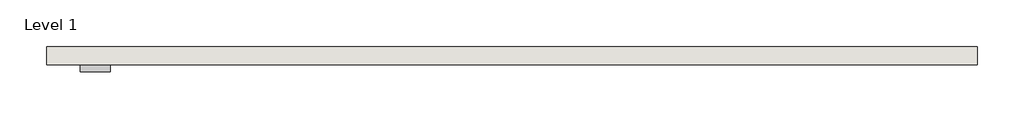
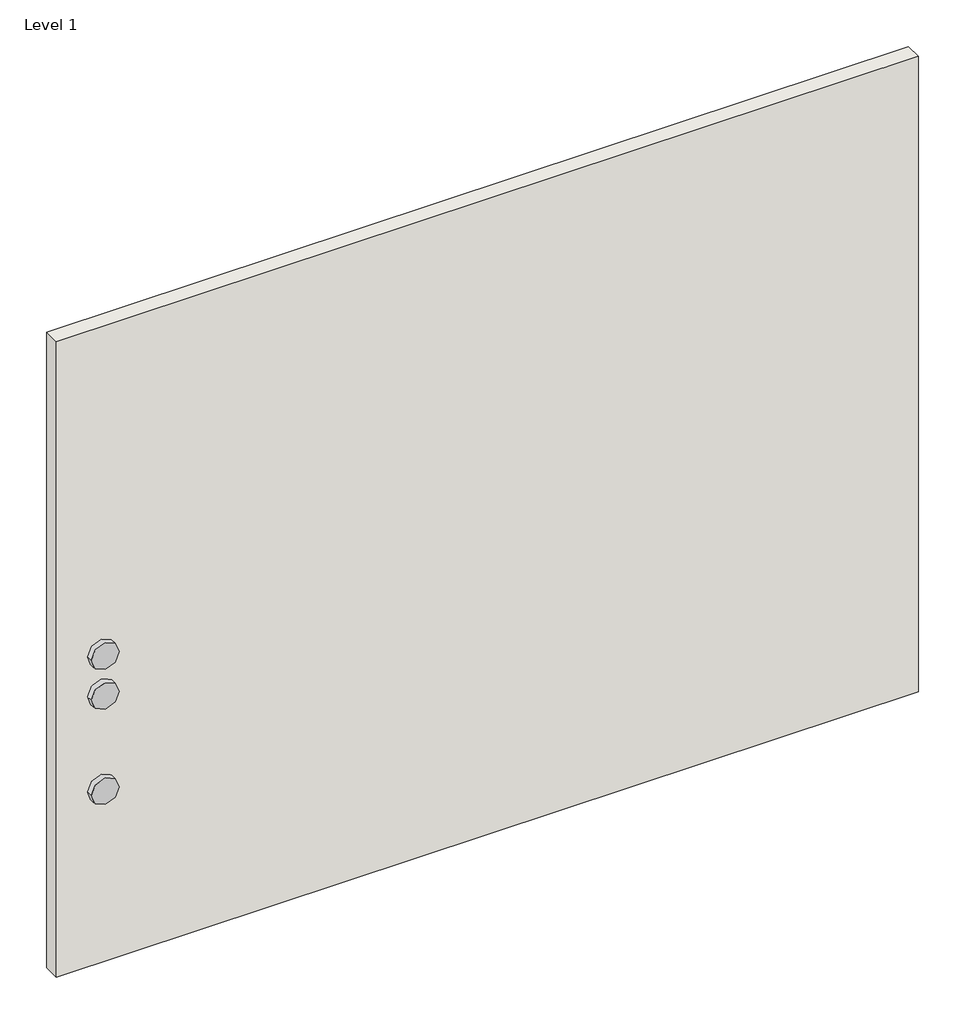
# One storey, incomplete: 3 proxies, 1 wall.
"""IFC4 building model written with IfcOpenShell, lengths in millimetres."""

import ifcopenshell
import ifcopenshell.guid

model = None  # the IFC model being written
_history = None  # IfcOwnerHistory: only IFC2X3 demands one
_inside = {}  # id of a spatial element -> (the spatial element, [elements in it])
_under = {}  # id of a project, library or spatial element -> (it, [spatial elements below it])
_declared = {}  # id of a project -> (the project, [libraries it declares])
_typed = {}  # id of a type object -> (the type object, [elements of that type])
_made_of = {}  # id of a material, layer set ... -> (it, [elements and type objects made of it])


def new_model(schema):
    """Start an empty IFC model of exactly this schema.

    Asked for "IFC4X3", IfcOpenShell would pick the latest addendum, in which some entities
    have other attributes; the version numbers below select the first issue.
    IFC2X3 requires an IfcOwnerHistory on every rooted entity: one is made here for all.
    """
    global model, _history
    if schema == "IFC4X3":
        model = ifcopenshell.file(schema_version=(4, 3, 0, 0))
    else:
        model = ifcopenshell.file(schema=schema)
    _inside.clear()
    _under.clear()
    _declared.clear()
    _typed.clear()
    _made_of.clear()
    _history = None
    if model.schema == "IFC2X3":
        org = make("IfcOrganization", Name="unknown")
        user = make(
            "IfcPersonAndOrganization",
            ThePerson=make("IfcPerson", FamilyName="unknown"),
            TheOrganization=org,
        )
        app = make(
            "IfcApplication",
            ApplicationDeveloper=org,
            Version="unknown",
            ApplicationFullName="unknown",
            ApplicationIdentifier="unknown",
        )
        _history = make(
            "IfcOwnerHistory",
            OwningUser=user,
            OwningApplication=app,
            ChangeAction="ADDED",
            CreationDate=0,
        )
    return model


def make(cls, **values):
    """One entity of the class cls with the attributes given. An attribute that is None is left unset."""
    return model.create_entity(
        cls, **{name: value for name, value in values.items() if value is not None}
    )


def rooted(cls, **values):
    """An entity with a GlobalId (a new one), such as an element, a storey or a relation."""
    return make(cls, GlobalId=ifcopenshell.guid.new(), OwnerHistory=_history, **values)


def si_unit(unit_type, name, prefix=None):
    """IfcSIUnit, for example si_unit("LENGTHUNIT", "METRE", prefix="MILLI")."""
    return make("IfcSIUnit", UnitType=unit_type, Prefix=prefix, Name=name)


def assignment(units):
    """IfcUnitAssignment: the units of a project."""
    return None if units is None else make("IfcUnitAssignment", Units=units)


def point(xyz):
    """IfcCartesianPoint."""
    return None if xyz is None else make("IfcCartesianPoint", Coordinates=xyz)


def direction(xyz):
    """IfcDirection."""
    return None if xyz is None else make("IfcDirection", DirectionRatios=xyz)


def frame(location, z_axis=None, x_axis=None):
    """IfcAxis2Placement3D, a coordinate frame: its origin and axes. An axis left out is left unset."""
    return make(
        "IfcAxis2Placement3D",
        Location=point(location),
        Axis=direction(z_axis),
        RefDirection=direction(x_axis),
    )


def frame_2d(location, x_axis=None):
    """IfcAxis2Placement2D, a coordinate frame in the plane: its origin and x axis."""
    return make(
        "IfcAxis2Placement2D", Location=point(location), RefDirection=direction(x_axis)
    )


def origin():
    """The frame at (0, 0, 0) with its axes left unset."""
    return frame((0.0, 0.0, 0.0))


def origin_with_axes():
    """The frame at (0, 0, 0) with the z axis (0, 0, 1) and the x axis (1, 0, 0) written out."""
    return frame((0.0, 0.0, 0.0), z_axis=(0.0, 0.0, 1.0), x_axis=(1.0, 0.0, 0.0))


def place(relative_to, where):
    """IfcLocalPlacement: puts the frame where relative to a parent placement (None: the world)."""
    return make(
        "IfcLocalPlacement", PlacementRelTo=relative_to, RelativePlacement=where
    )


def context(
    kind, dimensions, precision=None, world=None, true_north=None, identifier=None
):
    """IfcGeometricRepresentationContext, for example the 3D "Model" context."""
    return make(
        "IfcGeometricRepresentationContext",
        ContextIdentifier=identifier,
        ContextType=kind,
        CoordinateSpaceDimension=dimensions,
        Precision=precision,
        WorldCoordinateSystem=world,
        TrueNorth=true_north,
    )


def project(units=None, contexts=None):
    """IfcProject with its units and contexts."""
    return rooted(
        "IfcProject",
        Name="project",
        RepresentationContexts=contexts,
        UnitsInContext=assignment(units),
    )


def spatial(cls, under=None, at=None, **own):
    """A site, building, storey or space (cls), placed at a placement, below another one or the project."""
    s = rooted(cls, ObjectPlacement=at, **own)
    if under is not None:
        _under.setdefault(under.id(), (under, []))[1].append(s)
    return s


def polyline(points):
    """IfcPolyline through the points."""
    return make("IfcPolyline", Points=[point(p) for p in points])


def circle_curve(where, radius):
    """IfcCircle in the frame where."""
    return make("IfcCircle", Position=where, Radius=radius)


def trimmed(basis, trim1, trim2, sense, master):
    """IfcTrimmedCurve: the piece of a basis curve between two trims."""
    return make(
        "IfcTrimmedCurve",
        BasisCurve=basis,
        Trim1=trim1,
        Trim2=trim2,
        SenseAgreement=sense,
        MasterRepresentation=master,
    )


def segment(curve, same_sense, transition):
    """IfcCompositeCurveSegment."""
    return make(
        "IfcCompositeCurveSegment",
        Transition=transition,
        SameSense=same_sense,
        ParentCurve=curve,
    )


def composite_curve(segments, self_intersect=None):
    """IfcCompositeCurve: segments joined end to end."""
    return make("IfcCompositeCurve", Segments=segments, SelfIntersect=self_intersect)


def outline(outer, holes=None, kind="AREA"):
    """IfcArbitraryClosedProfileDef: a profile drawn as a closed curve; with holes, ...WithVoids."""
    if holes is None:
        return make("IfcArbitraryClosedProfileDef", ProfileType=kind, OuterCurve=outer)
    return make(
        "IfcArbitraryProfileDefWithVoids",
        ProfileType=kind,
        OuterCurve=outer,
        InnerCurves=holes,
    )


def extrude(swept, where, along, depth):
    """IfcExtrudedAreaSolid: the profile swept, set in the frame where, extruded along a direction by depth."""
    return make(
        "IfcExtrudedAreaSolid",
        SweptArea=swept,
        Position=where,
        ExtrudedDirection=direction(along),
        Depth=depth,
    )


def shape(context_of_items, identifier, shape_type, items):
    """IfcShapeRepresentation: the items that make up one representation, for example the "Body"."""
    return make(
        "IfcShapeRepresentation",
        ContextOfItems=context_of_items,
        RepresentationIdentifier=identifier,
        RepresentationType=shape_type,
        Items=items,
    )


def source(mapping_origin, context_of_items, identifier, shape_type, items):
    """IfcRepresentationMap: a shape defined once, which mapped items show again and again."""
    return make(
        "IfcRepresentationMap",
        MappingOrigin=mapping_origin,
        MappedRepresentation=shape(context_of_items, identifier, shape_type, items),
    )


def transform(
    local_origin,
    x_axis=None,
    y_axis=None,
    z_axis=None,
    scale=None,
    scale2=None,
    scale3=None,
    uniform=True,
):
    """IfcCartesianTransformationOperator3D, or its non-uniform kind. x_axis, y_axis, z_axis: its Axis1, 2, 3."""
    if uniform:
        return make(
            "IfcCartesianTransformationOperator3D",
            Axis1=direction(x_axis),
            Axis2=direction(y_axis),
            LocalOrigin=point(local_origin),
            Scale=scale,
            Axis3=direction(z_axis),
        )
    return make(
        "IfcCartesianTransformationOperator3DnonUniform",
        Axis1=direction(x_axis),
        Axis2=direction(y_axis),
        LocalOrigin=point(local_origin),
        Scale=scale,
        Axis3=direction(z_axis),
        Scale2=scale2,
        Scale3=scale3,
    )


def mapped(mapping_source, mapping_target):
    """IfcMappedItem: shows the shape of a source again, moved by a transform."""
    return make(
        "IfcMappedItem", MappingSource=mapping_source, MappingTarget=mapping_target
    )


def made_of(thing, what):
    """Note that an element or type object is made of a material, layer set ...; save() writes the relation."""
    if what is not None:
        _made_of.setdefault(what.id(), (what, []))[1].append(thing)
    return thing


def element(
    cls,
    number,
    at=None,
    inside=None,
    cuts=None,
    type_object=None,
    material=None,
    context=None,
    identifier="Body",
    shape_type=None,
    held_by="IfcProductDefinitionShape",
    body=None,
    shapes=None,
    **own,
):
    """One element of the class cls, such as IfcWall. Its Tag is "e" and its number.

    at: its placement. inside: the storey or other place that contains it. cuts: it is an
    opening in that element (IfcRelVoidsElement). A single representation is given by context,
    identifier, shape_type and body (its items); several are given by shapes. held_by: the class
    of the entity that holds the representations. save() writes the other relations.
    """
    e = rooted(cls, Tag="e%d" % number, ObjectPlacement=at, **own)
    if body is not None:
        shapes = [shape(context, identifier, shape_type, body)]
    if shapes is not None:
        e.Representation = make(held_by, Representations=shapes)
    if inside is not None:
        _inside.setdefault(inside.id(), (inside, []))[1].append(e)
    if cuts is not None:
        rooted(
            "IfcRelVoidsElement", RelatingBuildingElement=cuts, RelatedOpeningElement=e
        )
    if type_object is not None:
        _typed.setdefault(type_object.id(), (type_object, []))[1].append(e)
    return made_of(e, material)


def aggregate(whole, parts):
    """IfcRelAggregates: a whole, such as a stair, and the parts it consists of."""
    return rooted("IfcRelAggregates", RelatingObject=whole, RelatedObjects=parts)


def save(model, path):
    """Write the relations noted so far, then the file.

    IfcRelAggregates (storeys below a building ...), IfcRelContainedInSpatialStructure (elements
    in a storey), IfcRelDefinesByType, IfcRelAssociatesMaterial and IfcRelDeclares: one each for
    every whole, place, type object, material and project.
    """
    for whole, parts in _under.values():
        aggregate(whole, parts)
    for where, things in _inside.values():
        rooted(
            "IfcRelContainedInSpatialStructure",
            RelatedElements=things,
            RelatingStructure=where,
        )
    for kind, things in _typed.values():
        rooted("IfcRelDefinesByType", RelatedObjects=things, RelatingType=kind)
    for what, things in _made_of.values():
        rooted("IfcRelAssociatesMaterial", RelatedObjects=things, RelatingMaterial=what)
    for by, libraries in _declared.values():
        rooted("IfcRelDeclares", RelatingContext=by, RelatedDefinitions=libraries)
    model.write(path)


def materialmodel_materialmodel_d9ff14ed(model_context):
    return source(origin(), model_context, "Body", "SweptSolid", [
        extrude(outline(composite_curve([segment(trimmed(circle_curve(frame_2d((75.0, 0.0)), 25.0), [point((75.0, -25.0))], [point((75.0, 25.0))], False, "CARTESIAN"), True, "CONTINUOUS"), segment(trimmed(circle_curve(frame_2d((75.0, 0.0)), 25.0), [point((75.0, 25.0))], [point((75.0, -25.0))], False, "CARTESIAN"), True, "CONTINUOUS")], self_intersect=False)), frame((0.0, -11.8565782, 0.0), z_axis=(0.0, 1.0, 0.0), x_axis=(0.0, 0.0, 1.0)), (0.0, 0.0, 1.0), 11.8565782),
    ])


model = new_model("IFC4")

# Units and contexts
model_context = context("Model", 3, world=origin())
ifc_project = project(units=[si_unit("LENGTHUNIT", "METRE", prefix="MILLI")], contexts=[model_context])

# Site, building, storey
site = spatial("IfcSite", under=ifc_project)
building = spatial("IfcBuilding", under=site)
storey = spatial("IfcBuildingStorey", under=building, Name="Level 1", Elevation=0.0)

# Proxies
placement = place(None, origin())
materialmodel_materialmodel_shape = materialmodel_materialmodel_d9ff14ed(model_context)
element("IfcBuildingElementProxy", 1, Name="MaterialModel : MaterialModel", ObjectType="MaterialModel : MaterialModel", at=placement, inside=storey, context=model_context, shape_type="MappedRepresentation", body=[
    mapped(materialmodel_materialmodel_shape, transform((-14203.0878992, 5257.5863071, 255.76307), x_axis=(1.0, 0.0, 0.0), y_axis=(0.0, 1.0, 0.0), z_axis=(0.0, 0.0, 1.0))),
])
element("IfcBuildingElementProxy", 2, Name="MaterialModel : MaterialModel", ObjectType="MaterialModel : MaterialModel", at=placement, inside=storey, context=model_context, shape_type="MappedRepresentation", body=[
    mapped(materialmodel_materialmodel_shape, transform((-14203.0878992, 5257.5863071, 510.76307), x_axis=(1.0, 0.0, 0.0), y_axis=(0.0, 1.0, 0.0), z_axis=(0.0, 0.0, 1.0))),
])
element("IfcBuildingElementProxy", 3, Name="MaterialModel : MaterialModel", ObjectType="MaterialModel : MaterialModel", at=placement, inside=storey, context=model_context, shape_type="MappedRepresentation", body=[
    mapped(materialmodel_materialmodel_shape, transform((-14203.0878992, 5257.5863071, 435.76307), x_axis=(1.0, 0.0, 0.0), y_axis=(0.0, 1.0, 0.0), z_axis=(0.0, 0.0, 1.0))),
])

# Wall
element("IfcWall", 4, ObjectType="Presentation wall", at=placement, inside=storey, context=model_context, shape_type="SweptSolid", body=[
    extrude(outline(polyline([(-12743.5118995, 5257.6728282), (-14283.5118995, 5257.6728282), (-14283.5118995, 5287.6728282), (-12743.5118995, 5287.6728282), (-12743.5118995, 5257.6728282)])), origin_with_axes(), (0.0, 0.0, 1.0), 1200.0),
])

save(model, "model.ifc")
